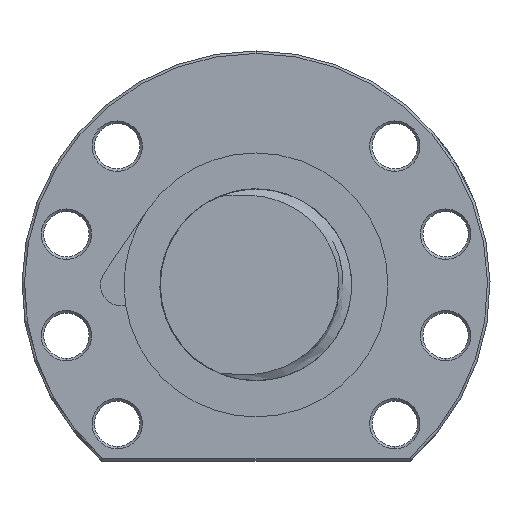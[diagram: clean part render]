
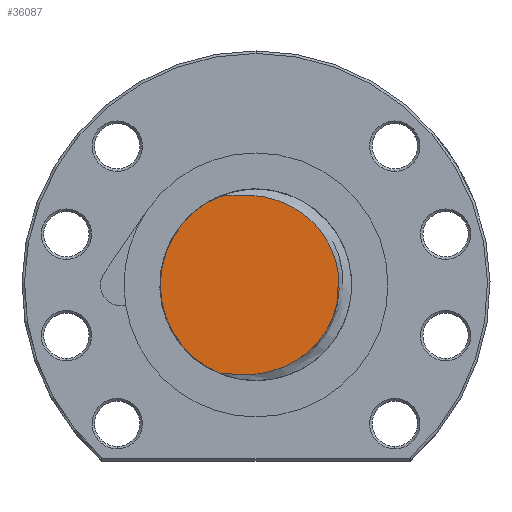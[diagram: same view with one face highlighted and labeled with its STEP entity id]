
A CAD part, left-side view. The second image highlights one B-rep face of the part: STEP entity #36087.
In plain terms, the highlighted planar face has unit normal (-1, 0, 0).
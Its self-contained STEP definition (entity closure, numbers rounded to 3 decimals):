
#23201 = DIRECTION ( 'NONE',  ( 0., 1., 0. ) ) ;
#23202 = DIRECTION ( 'NONE',  ( 1., 0., 0. ) ) ;
#23268 = CARTESIAN_POINT ( 'NONE',  ( -205., 0., 0. ) ) ;
#23269 = AXIS2_PLACEMENT_3D ( 'NONE', #23268, #23202, #23201 ) ;
#23270 = CIRCLE ( 'NONE', #23269, 19. ) ;
#23500 = CARTESIAN_POINT ( 'NONE',  ( -205., 7.077, -17.633 ) ) ;
#23523 = CARTESIAN_POINT ( 'NONE',  ( -205., 7.076, 17.633 ) ) ;
#29660 = CARTESIAN_POINT ( 'NONE',  ( -205., 7.076, 17.633 ) ) ;
#29661 = CARTESIAN_POINT ( 'NONE',  ( -205., 6.723, 17.643 ) ) ;
#29662 = CARTESIAN_POINT ( 'NONE',  ( -205., 6.372, 17.671 ) ) ;
#29663 = CARTESIAN_POINT ( 'NONE',  ( -205., 5.668, 17.726 ) ) ;
#29664 = CARTESIAN_POINT ( 'NONE',  ( -205., 5.316, 17.755 ) ) ;
#29665 = CARTESIAN_POINT ( 'NONE',  ( -205., 4.26, 17.831 ) ) ;
#29666 = CARTESIAN_POINT ( 'NONE',  ( -205., 3.554, 17.867 ) ) ;
#29667 = CARTESIAN_POINT ( 'NONE',  ( -205., 2.143, 17.879 ) ) ;
#29668 = CARTESIAN_POINT ( 'NONE',  ( -205., 1.439, 17.857 ) ) ;
#29669 = CARTESIAN_POINT ( 'NONE',  ( -205., 0.036, 17.747 ) ) ;
#29670 = CARTESIAN_POINT ( 'NONE',  ( -205., -0.665, 17.658 ) ) ;
#29671 = CARTESIAN_POINT ( 'NONE',  ( -205., -2.748, 17.282 ) ) ;
#29672 = CARTESIAN_POINT ( 'NONE',  ( -205., -4.09, 16.894 ) ) ;
#29673 = CARTESIAN_POINT ( 'NONE',  ( -205., -6.028, 16.095 ) ) ;
#29674 = CARTESIAN_POINT ( 'NONE',  ( -205., -6.662, 15.791 ) ) ;
#29675 = CARTESIAN_POINT ( 'NONE',  ( -205., -7.9, 15.107 ) ) ;
#29676 = CARTESIAN_POINT ( 'NONE',  ( -205., -8.494, 14.734 ) ) ;
#29677 = CARTESIAN_POINT ( 'NONE',  ( -205., -10.2, 13.521 ) ) ;
#29678 = CARTESIAN_POINT ( 'NONE',  ( -205., -11.238, 12.589 ) ) ;
#29679 = CARTESIAN_POINT ( 'NONE',  ( -205., -12.636, 10.992 ) ) ;
#29680 = CARTESIAN_POINT ( 'NONE',  ( -205., -13.068, 10.436 ) ) ;
#29681 = CARTESIAN_POINT ( 'NONE',  ( -205., -13.859, 9.282 ) ) ;
#29682 = CARTESIAN_POINT ( 'NONE',  ( -205., -14.218, 8.684 ) ) ;
#29683 = CARTESIAN_POINT ( 'NONE',  ( -205., -14.704, 7.753 ) ) ;
#29684 = CARTESIAN_POINT ( 'NONE',  ( -205., -14.857, 7.437 ) ) ;
#29685 = CARTESIAN_POINT ( 'NONE',  ( -205., -15.145, 6.795 ) ) ;
#29686 = CARTESIAN_POINT ( 'NONE',  ( -205., -15.28, 6.467 ) ) ;
#29687 = CARTESIAN_POINT ( 'NONE',  ( -205., -15.654, 5.476 ) ) ;
#29688 = CARTESIAN_POINT ( 'NONE',  ( -205., -15.861, 4.806 ) ) ;
#29689 = CARTESIAN_POINT ( 'NONE',  ( -205., -16.193, 3.449 ) ) ;
#29690 = CARTESIAN_POINT ( 'NONE',  ( -205., -16.318, 2.762 ) ) ;
#29691 = CARTESIAN_POINT ( 'NONE',  ( -205., -16.443, 1.718 ) ) ;
#29692 = CARTESIAN_POINT ( 'NONE',  ( -205., -16.474, 1.367 ) ) ;
#29693 = CARTESIAN_POINT ( 'NONE',  ( -205., -16.515, 0.662 ) ) ;
#29694 = CARTESIAN_POINT ( 'NONE',  ( -205., -16.525, 0.308 ) ) ;
#29695 = CARTESIAN_POINT ( 'NONE',  ( -205., -16.521, -1.451 ) ) ;
#29696 = CARTESIAN_POINT ( 'NONE',  ( -205., -16.349, -2.836 ) ) ;
#29697 = CARTESIAN_POINT ( 'NONE',  ( -205., -15.839, -4.882 ) ) ;
#29698 = CARTESIAN_POINT ( 'NONE',  ( -205., -15.625, -5.561 ) ) ;
#29699 = CARTESIAN_POINT ( 'NONE',  ( -205., -15.124, -6.872 ) ) ;
#29700 = CARTESIAN_POINT ( 'NONE',  ( -205., -14.836, -7.508 ) ) ;
#29701 = CARTESIAN_POINT ( 'NONE',  ( -205., -14.184, -8.742 ) ) ;
#29702 = CARTESIAN_POINT ( 'NONE',  ( -205., -13.822, -9.34 ) ) ;
#29703 = CARTESIAN_POINT ( 'NONE',  ( -205., -13.222, -10.208 ) ) ;
#29704 = CARTESIAN_POINT ( 'NONE',  ( -205., -13.011, -10.494 ) ) ;
#29705 = CARTESIAN_POINT ( 'NONE',  ( -205., -12.576, -11.05 ) ) ;
#29706 = CARTESIAN_POINT ( 'NONE',  ( -205., -12.352, -11.32 ) ) ;
#29707 = CARTESIAN_POINT ( 'NONE',  ( -205., -11.193, -12.632 ) ) ;
#29708 = CARTESIAN_POINT ( 'NONE',  ( -205., -10.153, -13.561 ) ) ;
#29709 = CARTESIAN_POINT ( 'NONE',  ( -205., -8.716, -14.574 ) ) ;
#29710 = CARTESIAN_POINT ( 'NONE',  ( -205., -8.421, -14.77 ) ) ;
#29711 = CARTESIAN_POINT ( 'NONE',  ( -205., -7.822, -15.143 ) ) ;
#29712 = CARTESIAN_POINT ( 'NONE',  ( -205., -7.518, -15.32 ) ) ;
#29713 = CARTESIAN_POINT ( 'NONE',  ( -205., -6.595, -15.824 ) ) ;
#29714 = CARTESIAN_POINT ( 'NONE',  ( -205., -5.964, -16.123 ) ) ;
#29715 = CARTESIAN_POINT ( 'NONE',  ( -205., -4.673, -16.65 ) ) ;
#29716 = CARTESIAN_POINT ( 'NONE',  ( -205., -4.012, -16.879 ) ) ;
#29717 = CARTESIAN_POINT ( 'NONE',  ( -205., -2.66, -17.267 ) ) ;
#29718 = CARTESIAN_POINT ( 'NONE',  ( -205., -1.968, -17.426 ) ) ;
#29719 = CARTESIAN_POINT ( 'NONE',  ( -205., 0.101, -17.79 ) ) ;
#29720 = CARTESIAN_POINT ( 'NONE',  ( -205., 1.488, -17.887 ) ) ;
#29721 = CARTESIAN_POINT ( 'NONE',  ( -205., 3.579, -17.866 ) ) ;
#29722 = CARTESIAN_POINT ( 'NONE',  ( -205., 4.278, -17.831 ) ) ;
#29723 = CARTESIAN_POINT ( 'NONE',  ( -205., 5.327, -17.754 ) ) ;
#29724 = CARTESIAN_POINT ( 'NONE',  ( -205., 5.677, -17.725 ) ) ;
#29725 = CARTESIAN_POINT ( 'NONE',  ( -205., 6.376, -17.67 ) ) ;
#29726 = CARTESIAN_POINT ( 'NONE',  ( -205., 6.726, -17.642 ) ) ;
#29727 = CARTESIAN_POINT ( 'NONE',  ( -205., 7.077, -17.633 ) ) ;
#29729 = B_SPLINE_CURVE_WITH_KNOTS ( 'NONE', 3,
 ( #29727, #29726, #29725, #29724, #29723, #29722, #29721, #29720, #29719, #29718, #29717, #29716, #29715, #29714, #29713, #29712, #29711, #29710, #29709, #29708, #29707, #29706, #29705, #29704, #29703, #29702, #29701, #29700, #29699, #29698, #29697, #29696, #29695, #29694, #29693, #29692, #29691, #29690, #29689, #29688, #29687, #29686, #29685, #29684, #29683, #29682, #29681, #29680, #29679, #29678, #29677, #29676, #29675, #29674, #29673, #29672, #29671, #29670, #29669, #29668, #29667, #29666, #29665, #29664, #29663, #29662, #29661, #29660 ),
 .UNSPECIFIED., .F., .F.,
 ( 4, 2, 2, 2, 2, 2, 2, 2, 2, 2, 2, 2, 2, 2, 2, 2, 2, 2, 2, 2, 2, 2, 2, 2, 2, 2, 2, 2, 2, 2, 2, 2, 2, 4 ),
 ( 0.003, 0.004, 0.005, 0.007, 0.011, 0.014, 0.016, 0.018, 0.019, 0.02, 0.024, 0.025, 0.026, 0.028, 0.03, 0.032, 0.037, 0.038, 0.039, 0.041, 0.043, 0.044, 0.045, 0.047, 0.049, 0.054, 0.056, 0.058, 0.062, 0.064, 0.066, 0.068, 0.069, 0.07 ),
 .UNSPECIFIED. ) ;
#29731 = DIRECTION ( 'NONE',  ( 0., 0., -1. ) ) ;
#29732 = DIRECTION ( 'NONE',  ( 1., 0., 0. ) ) ;
#29733 = CARTESIAN_POINT ( 'NONE',  ( -205., 0., 0. ) ) ;
#29734 = AXIS2_PLACEMENT_3D ( 'NONE', #29733, #29732, #29731 ) ;
#29735 = PLANE ( 'NONE',  #29734 ) ;
#29741 = FACE_OUTER_BOUND ( 'NONE', #36073, .T. ) ;
#35486 = EDGE_CURVE ( 'NONE', #35550, #35545, #23270, .T. ) ;
#35545 = VERTEX_POINT ( 'NONE', #23523 ) ;
#35550 = VERTEX_POINT ( 'NONE', #23500 ) ;
#36073 = EDGE_LOOP ( 'NONE', ( #36088, #36089 ) ) ;
#36087 = ADVANCED_FACE ( 'NONE', ( #29741 ), #29735, .F. ) ;
#36088 = ORIENTED_EDGE ( 'NONE', *, *, #35486, .F. ) ;
#36089 = ORIENTED_EDGE ( 'NONE', *, *, #36090, .T. ) ;
#36090 = EDGE_CURVE ( 'NONE', #35550, #35545, #29729, .T. ) ;
